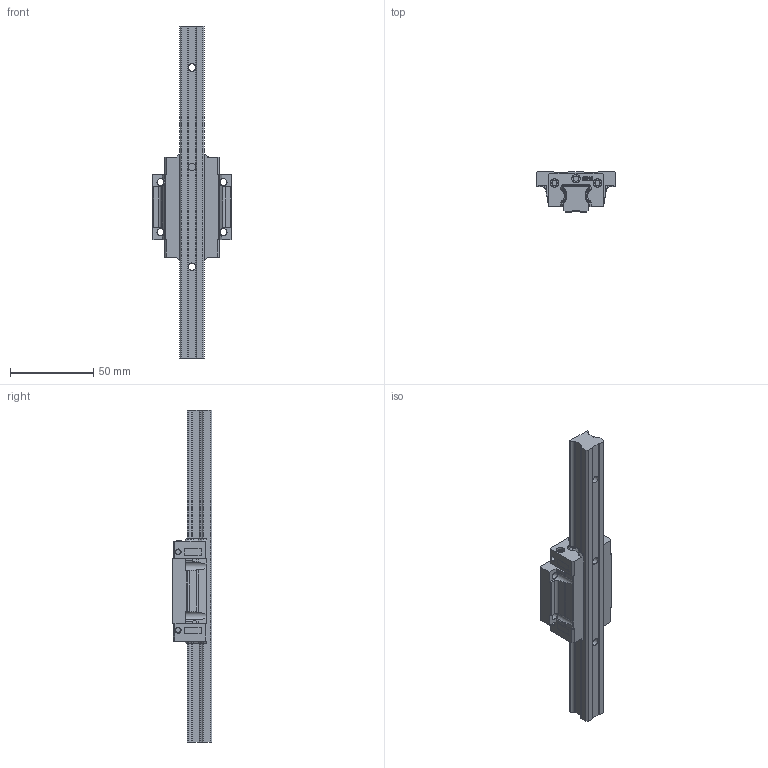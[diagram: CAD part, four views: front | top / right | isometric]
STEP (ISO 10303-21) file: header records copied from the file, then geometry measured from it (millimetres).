
FILE_DESCRIPTION(/* description */ (''),/* implementation_level */ '2;1');
FILE_NAME(/* name */ 'SGH15A.stp',/* time_stamp */ '2021-05-27T16:35:31+08:00',/* author */ (''),/* organization */ (''),/* preprocessor_version */ 'ST-DEVELOPER v15',/* originating_system */ 'SIEMENS PLM Software NX 8.5',/* authorisation */ '');
FILE_SCHEMA (('CONFIG_CONTROL_DESIGN'));
Length unit declared in the file: millimetre
Products named in the file (1): SGH15A
Bounding box: 47 x 24 x 200 mm (x, y, z)
Volume: 73642 mm3; surface area: 25282.2 mm2
Topology: 2 solids, 2 shells, 462 faces, 1278 edges, 855 vertices
Faces by surface type: plane 222, cylinder 107, extrusion 94, cone 39
Full cylindrical faces by diameter (mm): 3 x4, 3.1 x4, 3.2 x6, 4.2 x4, 4.5 x3, 5 x6, 7.5 x3
Entity records: 16028 total; most frequent: CARTESIAN_POINT 4753, ORIENTED_EDGE 2430, DIRECTION 2010, EDGE_CURVE 1215, VERTEX_POINT 833, VECTOR 742, LINE 648, AXIS2_PLACEMENT_3D 634
